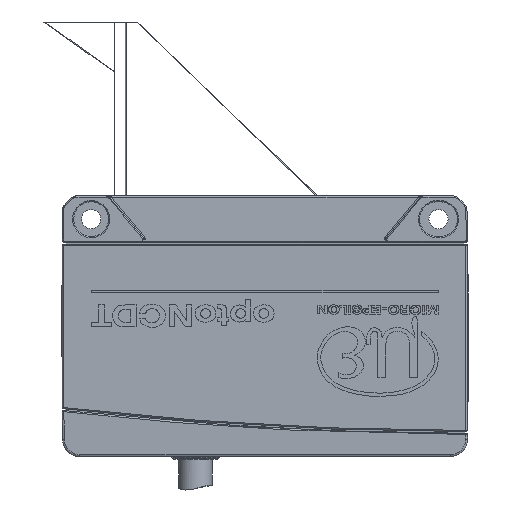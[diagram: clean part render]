
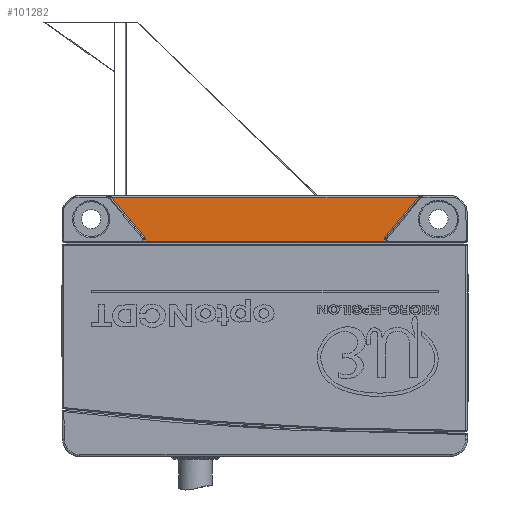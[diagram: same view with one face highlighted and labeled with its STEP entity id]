
A CAD part, front view. The second image highlights one B-rep face of the part: STEP entity #101282.
In plain terms, the highlighted planar face has unit normal (0, -1, 0.018).
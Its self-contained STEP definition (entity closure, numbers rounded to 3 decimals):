
#5951 = VERTEX_POINT ( 'NONE', #70294 ) ;
#10107 = CARTESIAN_POINT ( 'NONE',  ( 20.809, -15.497, 0.929 ) ) ;
#11611 = CARTESIAN_POINT ( 'NONE',  ( 2.128, -15.886, -21.333 ) ) ;
#11658 = VECTOR ( 'NONE', #89299, 1000. ) ;
#12189 = CARTESIAN_POINT ( 'NONE',  ( -19.313, -15.528, -0.853 ) ) ;
#12197 = ORIENTED_EDGE ( 'NONE', *, *, #91666, .T. ) ;
#14633 = CARTESIAN_POINT ( 'NONE',  ( 20.809, -15.497, 0.929 ) ) ;
#17107 = CARTESIAN_POINT ( 'NONE',  ( -20.64, -15.51, 0.197 ) ) ;
#18749 = CARTESIAN_POINT ( 'NONE',  ( 20.645, -15.505, 0.492 ) ) ;
#20027 = CARTESIAN_POINT ( 'NONE',  ( 20.645, -15.505, 0.492 ) ) ;
#21067 = CARTESIAN_POINT ( 'NONE',  ( -20.8, -15.55, -2.1 ) ) ;
#21430 = DIRECTION ( 'NONE',  ( 0., 0.017, 1. ) ) ;
#24475 = CARTESIAN_POINT ( 'NONE',  ( -26.495, -15.379, 7.705 ) ) ;
#25176 = VECTOR ( 'NONE', #28106, 1000. ) ;
#25224 = LINE ( 'NONE', #12189, #78635 ) ;
#26062 = FACE_OUTER_BOUND ( 'NONE', #106282, .T. ) ;
#26534 = LINE ( 'NONE', #11611, #25176 ) ;
#28106 = DIRECTION ( 'NONE',  ( 0.643, 0.013, 0.766 ) ) ;
#31031 = DIRECTION ( 'NONE',  ( 0.643, -0.013, -0.766 ) ) ;
#32000 = CARTESIAN_POINT ( 'NONE',  ( 26.495, -15.379, 7.705 ) ) ;
#32654 = EDGE_CURVE ( 'NONE', #41414, #88796, #26534, .T. ) ;
#34719 =( BOUNDED_CURVE ( )  B_SPLINE_CURVE ( 3, ( #18749, #99587, #81957, #10107 ),
 .UNSPECIFIED., .F., .F. ) 
 B_SPLINE_CURVE_WITH_KNOTS ( ( 4, 4 ),
 ( 4.73, 5.411 ),
 .UNSPECIFIED. ) 
 CURVE ( )  GEOMETRIC_REPRESENTATION_ITEM ( )  RATIONAL_B_SPLINE_CURVE ( ( 1., 0.962, 0.962, 1. ) ) 
 REPRESENTATION_ITEM ( '' )  );
#34806 = CARTESIAN_POINT ( 'NONE',  ( -20.809, -15.497, 0.929 ) ) ;
#35544 = LINE ( 'NONE', #43870, #77691 ) ;
#35585 = CARTESIAN_POINT ( 'NONE',  ( -20.645, -15.505, 0.492 ) ) ;
#35967 = CARTESIAN_POINT ( 'NONE',  ( -20.8, -15.51, 0.197 ) ) ;
#37210 = ORIENTED_EDGE ( 'NONE', *, *, #106569, .T. ) ;
#38349 = EDGE_CURVE ( 'NONE', #90451, #5951, #83854, .T. ) ;
#41414 = VERTEX_POINT ( 'NONE', #14633 ) ;
#42097 = VERTEX_POINT ( 'NONE', #98814 ) ;
#43807 = CARTESIAN_POINT ( 'NONE',  ( -20.648, -15.502, 0.654 ) ) ;
#43870 = CARTESIAN_POINT ( 'NONE',  ( -20.6, -15.55, -2.097 ) ) ;
#50320 = EDGE_CURVE ( 'NONE', #102867, #90451, #35544, .T. ) ;
#52516 = EDGE_CURVE ( 'NONE', #5951, #55789, #72036, .T. ) ;
#53916 = ORIENTED_EDGE ( 'NONE', *, *, #32654, .T. ) ;
#55789 = VERTEX_POINT ( 'NONE', #20027 ) ;
#56719 = PLANE ( 'NONE',  #113954 ) ;
#58373 = VERTEX_POINT ( 'NONE', #24475 ) ;
#63568 = DIRECTION ( 'NONE',  ( 0.017, -0.017, -1. ) ) ;
#63882 = EDGE_CURVE ( 'NONE', #88796, #58373, #65380, .T. ) ;
#65380 = LINE ( 'NONE', #72662, #100484 ) ;
#65630 = VECTOR ( 'NONE', #90934, 1000. ) ;
#70294 = CARTESIAN_POINT ( 'NONE',  ( 20.64, -15.51, 0.197 ) ) ;
#72036 = LINE ( 'NONE', #99470, #11658 ) ;
#72662 = CARTESIAN_POINT ( 'NONE',  ( -26.808, -15.379, 7.705 ) ) ;
#73707 =( BOUNDED_CURVE ( )  B_SPLINE_CURVE ( 3, ( #34806, #97625, #43807, #35585 ),
 .UNSPECIFIED., .F., .F. ) 
 B_SPLINE_CURVE_WITH_KNOTS ( ( 4, 4 ),
 ( 0.873, 1.553 ),
 .UNSPECIFIED. ) 
 CURVE ( )  GEOMETRIC_REPRESENTATION_ITEM ( )  RATIONAL_B_SPLINE_CURVE ( ( 1., 0.962, 0.962, 1. ) ) 
 REPRESENTATION_ITEM ( '' )  );
#77691 = VECTOR ( 'NONE', #63568, 1000. ) ;
#78635 = VECTOR ( 'NONE', #31031, 1000. ) ;
#79969 = ORIENTED_EDGE ( 'NONE', *, *, #112080, .T. ) ;
#81957 = CARTESIAN_POINT ( 'NONE',  ( 20.705, -15.499, 0.805 ) ) ;
#83854 = LINE ( 'NONE', #35967, #65630 ) ;
#83866 = DIRECTION ( 'NONE',  ( 0., -1., 0.017 ) ) ;
#88796 = VERTEX_POINT ( 'NONE', #32000 ) ;
#89299 = DIRECTION ( 'NONE',  ( 0.017, 0.017, 1. ) ) ;
#90324 = DIRECTION ( 'NONE',  ( -1., 0., 0. ) ) ;
#90451 = VERTEX_POINT ( 'NONE', #17107 ) ;
#90934 = DIRECTION ( 'NONE',  ( 1., 0., 0. ) ) ;
#91666 = EDGE_CURVE ( 'NONE', #58373, #42097, #25224, .T. ) ;
#96749 = ORIENTED_EDGE ( 'NONE', *, *, #38349, .T. ) ;
#97625 = CARTESIAN_POINT ( 'NONE',  ( -20.705, -15.499, 0.805 ) ) ;
#98814 = CARTESIAN_POINT ( 'NONE',  ( -20.809, -15.497, 0.929 ) ) ;
#99470 = CARTESIAN_POINT ( 'NONE',  ( 20.587, -15.563, -2.822 ) ) ;
#99587 = CARTESIAN_POINT ( 'NONE',  ( 20.648, -15.502, 0.654 ) ) ;
#100484 = VECTOR ( 'NONE', #90324, 1000. ) ;
#101282 = ADVANCED_FACE ( 'NONE', ( #26062 ), #56719, .T. ) ;
#102867 = VERTEX_POINT ( 'NONE', #105337 ) ;
#105337 = CARTESIAN_POINT ( 'NONE',  ( -20.645, -15.505, 0.492 ) ) ;
#106282 = EDGE_LOOP ( 'NONE', ( #111504, #96749, #109682, #79969, #53916, #108788, #12197, #37210 ) ) ;
#106569 = EDGE_CURVE ( 'NONE', #42097, #102867, #73707, .T. ) ;
#108788 = ORIENTED_EDGE ( 'NONE', *, *, #63882, .T. ) ;
#109682 = ORIENTED_EDGE ( 'NONE', *, *, #52516, .T. ) ;
#111504 = ORIENTED_EDGE ( 'NONE', *, *, #50320, .T. ) ;
#112080 = EDGE_CURVE ( 'NONE', #55789, #41414, #34719, .T. ) ;
#113954 = AXIS2_PLACEMENT_3D ( 'NONE', #21067, #83866, #21430 ) ;
